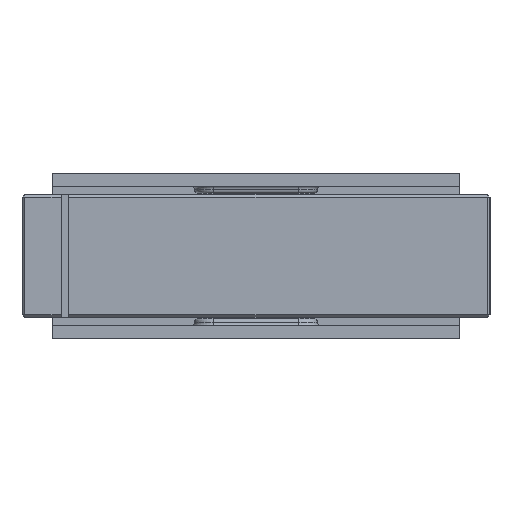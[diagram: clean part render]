
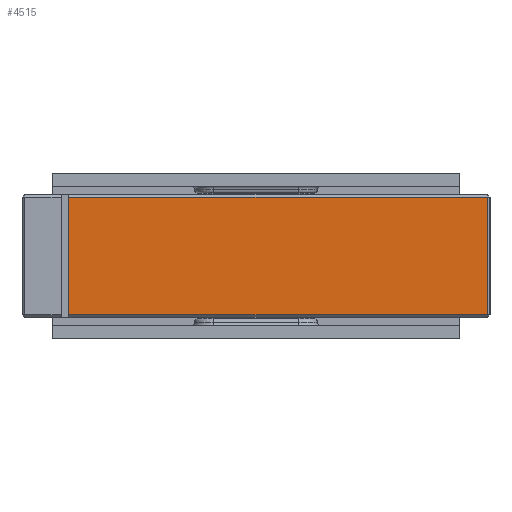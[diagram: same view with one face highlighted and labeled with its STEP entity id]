
A CAD part, left-side view. The second image highlights one B-rep face of the part: STEP entity #4515.
In plain terms, the highlighted planar face has unit normal (-1, 0, 0).
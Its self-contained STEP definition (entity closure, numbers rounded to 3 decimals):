
#555 = EDGE_CURVE ( 'NONE', #3731, #2515, #7608, .T. ) ;
#1534 = DIRECTION ( 'NONE',  ( 0., 1., 0. ) ) ;
#1611 = CARTESIAN_POINT ( 'NONE',  ( -8., 7.65, -2.4 ) ) ;
#2082 = CARTESIAN_POINT ( 'NONE',  ( -8., 7.65, 2.4 ) ) ;
#2515 = VERTEX_POINT ( 'NONE', #7419 ) ;
#2544 = CARTESIAN_POINT ( 'NONE',  ( -8., 7.65, 2.5 ) ) ;
#2583 = LINE ( 'NONE', #2544, #3733 ) ;
#2664 = DIRECTION ( 'NONE',  ( 1., 0., 0. ) ) ;
#2729 = VECTOR ( 'NONE', #4147, 1000. ) ;
#2797 = LINE ( 'NONE', #5200, #4246 ) ;
#2818 = CARTESIAN_POINT ( 'NONE',  ( -8., -9.45, 2.4 ) ) ;
#3096 = DIRECTION ( 'NONE',  ( 0., 0., -1. ) ) ;
#3227 = EDGE_LOOP ( 'NONE', ( #6898, #4407, #4201, #4518 ) ) ;
#3241 = AXIS2_PLACEMENT_3D ( 'NONE', #6469, #2664, #1534 ) ;
#3727 = EDGE_CURVE ( 'NONE', #7235, #7180, #4771, .T. ) ;
#3731 = VERTEX_POINT ( 'NONE', #2818 ) ;
#3733 = VECTOR ( 'NONE', #3096, 1000. ) ;
#4147 = DIRECTION ( 'NONE',  ( 0., -1., 0. ) ) ;
#4201 = ORIENTED_EDGE ( 'NONE', *, *, #6300, .T. ) ;
#4246 = VECTOR ( 'NONE', #5240, 1000. ) ;
#4407 = ORIENTED_EDGE ( 'NONE', *, *, #3727, .T. ) ;
#4442 = EDGE_CURVE ( 'NONE', #2515, #7235, #2583, .T. ) ;
#4515 = ADVANCED_FACE ( 'NONE', ( #5798 ), #6894, .F. ) ;
#4518 = ORIENTED_EDGE ( 'NONE', *, *, #555, .T. ) ;
#4771 = LINE ( 'NONE', #1611, #2729 ) ;
#5200 = CARTESIAN_POINT ( 'NONE',  ( -8., -9.45, 2.5 ) ) ;
#5240 = DIRECTION ( 'NONE',  ( 0., 0., 1. ) ) ;
#5798 = FACE_OUTER_BOUND ( 'NONE', #3227, .T. ) ;
#5874 = VECTOR ( 'NONE', #6917, 1000. ) ;
#6286 = CARTESIAN_POINT ( 'NONE',  ( -8., -9.45, -2.4 ) ) ;
#6300 = EDGE_CURVE ( 'NONE', #7180, #3731, #2797, .T. ) ;
#6469 = CARTESIAN_POINT ( 'NONE',  ( -8., 7.65, 2.5 ) ) ;
#6894 = PLANE ( 'NONE',  #3241 ) ;
#6898 = ORIENTED_EDGE ( 'NONE', *, *, #4442, .T. ) ;
#6917 = DIRECTION ( 'NONE',  ( 0., 1., 0. ) ) ;
#7180 = VERTEX_POINT ( 'NONE', #6286 ) ;
#7219 = CARTESIAN_POINT ( 'NONE',  ( -8., 7.65, -2.4 ) ) ;
#7235 = VERTEX_POINT ( 'NONE', #7219 ) ;
#7419 = CARTESIAN_POINT ( 'NONE',  ( -8., 7.65, 2.4 ) ) ;
#7608 = LINE ( 'NONE', #2082, #5874 ) ;
